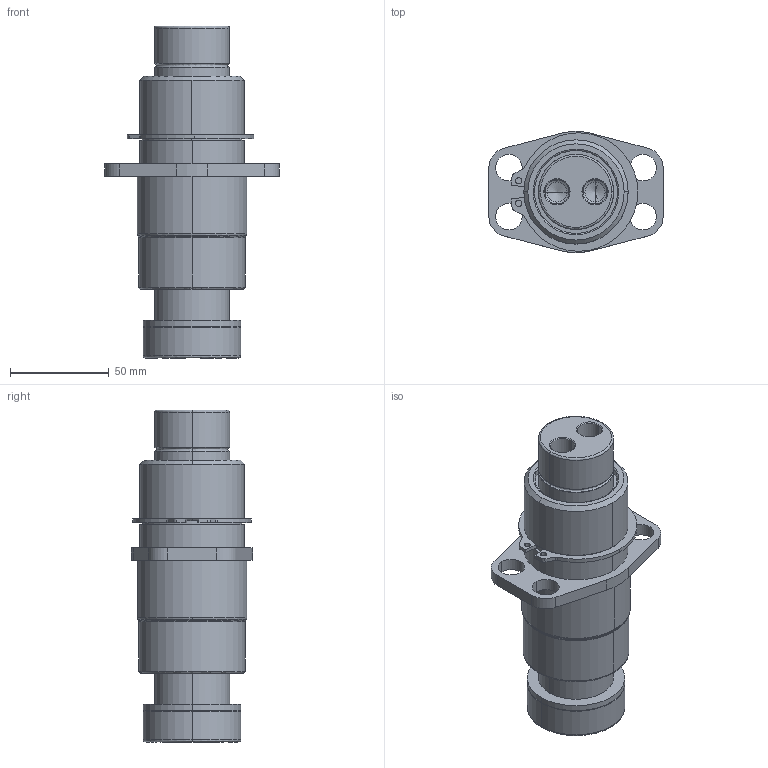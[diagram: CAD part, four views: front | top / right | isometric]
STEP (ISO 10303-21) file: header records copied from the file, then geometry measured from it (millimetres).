
FILE_DESCRIPTION (( 'STEP AP214' ), '1' );
FILE_NAME ('GK152-N4-2-TB-M-XXX.STEP', '2020-09-21T19:46:56', ( '' ), ( '' ), 'SwSTEP 2.0', 'SolidWorks 2017', '' );
FILE_SCHEMA (( 'AUTOMOTIVE_DESIGN' ));
Length unit declared in the file: inch
Products named in the file (7): GK1.50-N4-2-TB-Base; GK152-M-XXX-GuidePin; RetainingRing; GK152-N4-2-TB-M-XXX; GK152-DampeningWasher
Assembly tree (6 placements, depth 3):
  GK152-N4-2-TB-M-XXX
    GK1.50-N4-2-TB-Base
      GK1.50-N4-2-TB-Base
      RetainingRing
    GK152-M-XXX-GuidePin
      GK152-M-XXX-GuidePin
      GK152-DampeningWasher
Bounding box: 88.34 x 61.36 x 168.28 mm (x, y, z)
Volume: 327452.8 mm3; surface area: 71511.3 mm2
Topology: 4 solids, 4 shells, 133 faces, 313 edges, 192 vertices
Faces by surface type: cylinder 65, plane 26, cone 22, bspline 20
Entity records: 4850 total; most frequent: CARTESIAN_POINT 1285, DIRECTION 723, ORIENTED_EDGE 618, EDGE_CURVE 309, AXIS2_PLACEMENT_3D 300, VERTEX_POINT 192, CIRCLE 176, EDGE_LOOP 157
